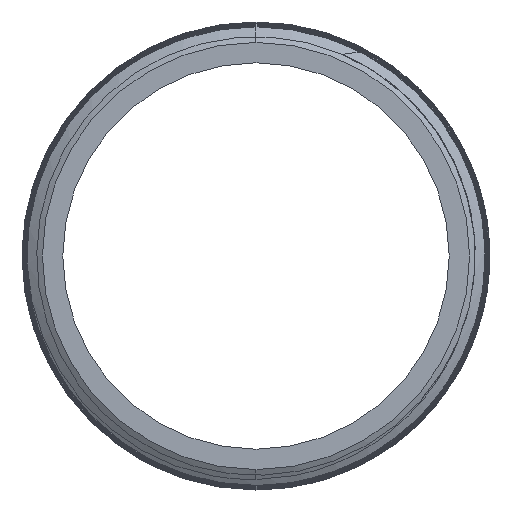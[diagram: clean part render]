
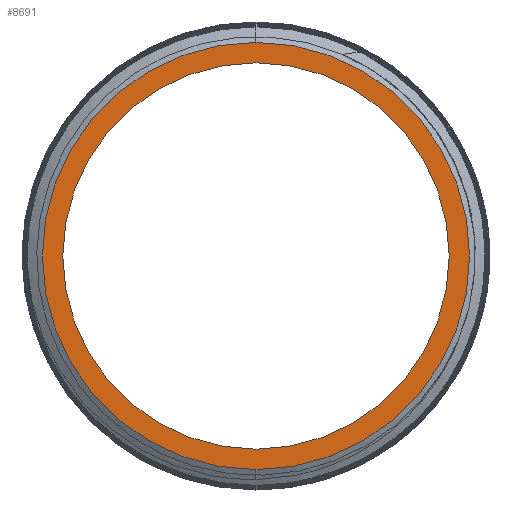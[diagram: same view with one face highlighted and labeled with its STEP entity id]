
A CAD part, left-side view. The second image highlights one B-rep face of the part: STEP entity #8691.
In plain terms, the highlighted planar face has unit normal (-1, 0, 0).
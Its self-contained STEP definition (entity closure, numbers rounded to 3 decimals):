
#331 = CARTESIAN_POINT ( 'NONE',  ( -100., 0., 0. ) ) ;
#425 = CIRCLE ( 'NONE', #7614, 7.1 ) ;
#675 = AXIS2_PLACEMENT_3D ( 'NONE', #7544, #4003, #5475 ) ;
#715 = CARTESIAN_POINT ( 'NONE',  ( -100., 0., 7.1 ) ) ;
#750 = VERTEX_POINT ( 'NONE', #8531 ) ;
#760 = EDGE_CURVE ( 'NONE', #3184, #7855, #2457, .T. ) ;
#856 = DIRECTION ( 'NONE',  ( -1., 0., 0. ) ) ;
#939 = EDGE_CURVE ( 'NONE', #7855, #3184, #425, .T. ) ;
#991 = EDGE_CURVE ( 'NONE', #3583, #750, #2855, .T. ) ;
#1136 = DIRECTION ( 'NONE',  ( 0., 0., -1. ) ) ;
#1259 = DIRECTION ( 'NONE',  ( 0., 0., 1. ) ) ;
#1424 = EDGE_LOOP ( 'NONE', ( #1965, #6530 ) ) ;
#1804 = PLANE ( 'NONE',  #8356 ) ;
#1961 = CARTESIAN_POINT ( 'NONE',  ( -100., 0., 0. ) ) ;
#1965 = ORIENTED_EDGE ( 'NONE', *, *, #939, .F. ) ;
#2144 = ORIENTED_EDGE ( 'NONE', *, *, #991, .T. ) ;
#2457 = CIRCLE ( 'NONE', #5555, 7.1 ) ;
#2855 = CIRCLE ( 'NONE', #4550, 7.85 ) ;
#3061 = DIRECTION ( 'NONE',  ( -1., 0., 0. ) ) ;
#3181 = DIRECTION ( 'NONE',  ( -1., 0., 0. ) ) ;
#3184 = VERTEX_POINT ( 'NONE', #5328 ) ;
#3492 = EDGE_CURVE ( 'NONE', #750, #3583, #7290, .T. ) ;
#3577 = DIRECTION ( 'NONE',  ( 0., 0., 1. ) ) ;
#3583 = VERTEX_POINT ( 'NONE', #4354 ) ;
#3899 = CARTESIAN_POINT ( 'NONE',  ( -100., 7.1, 0. ) ) ;
#4003 = DIRECTION ( 'NONE',  ( -1., 0., 0. ) ) ;
#4354 = CARTESIAN_POINT ( 'NONE',  ( -100., 0., 7.85 ) ) ;
#4467 = CARTESIAN_POINT ( 'NONE',  ( -100., 0., 0. ) ) ;
#4475 = DIRECTION ( 'NONE',  ( 1., 0., 0. ) ) ;
#4550 = AXIS2_PLACEMENT_3D ( 'NONE', #1961, #3181, #1259 ) ;
#4603 = FACE_BOUND ( 'NONE', #1424, .T. ) ;
#5328 = CARTESIAN_POINT ( 'NONE',  ( -100., 0., -7.1 ) ) ;
#5475 = DIRECTION ( 'NONE',  ( 0., 0., 1. ) ) ;
#5555 = AXIS2_PLACEMENT_3D ( 'NONE', #331, #3061, #5974 ) ;
#5723 = EDGE_LOOP ( 'NONE', ( #6772, #2144 ) ) ;
#5974 = DIRECTION ( 'NONE',  ( 0., 0., 1. ) ) ;
#6530 = ORIENTED_EDGE ( 'NONE', *, *, #760, .F. ) ;
#6772 = ORIENTED_EDGE ( 'NONE', *, *, #3492, .T. ) ;
#7290 = CIRCLE ( 'NONE', #675, 7.85 ) ;
#7387 = FACE_OUTER_BOUND ( 'NONE', #5723, .T. ) ;
#7544 = CARTESIAN_POINT ( 'NONE',  ( -100., 0., 0. ) ) ;
#7614 = AXIS2_PLACEMENT_3D ( 'NONE', #4467, #856, #3577 ) ;
#7855 = VERTEX_POINT ( 'NONE', #715 ) ;
#8356 = AXIS2_PLACEMENT_3D ( 'NONE', #3899, #4475, #1136 ) ;
#8531 = CARTESIAN_POINT ( 'NONE',  ( -100., 0., -7.85 ) ) ;
#8691 = ADVANCED_FACE ( 'NONE', ( #4603, #7387 ), #1804, .F. ) ;
